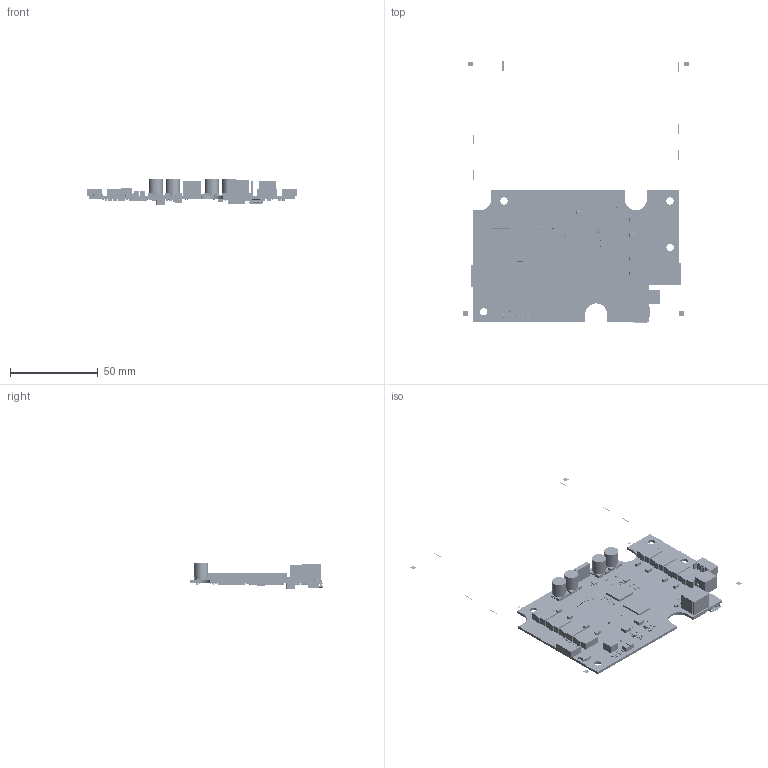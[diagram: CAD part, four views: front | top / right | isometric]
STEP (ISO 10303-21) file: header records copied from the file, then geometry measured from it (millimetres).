
FILE_DESCRIPTION(('STEP AP214'),'1');
FILE_NAME('AI2MAX_AMP_A113X_REV10_210715-3D.step','2021-07-15T09:35:54',(' '),(' '),'Spatial InterOp 3D','XD3DPlugin XRACreate',' ');
FILE_SCHEMA(('automotive_design'));
Length unit declared in the file: millimetre
Products named in the file (286): Submodel-D:\Gerber\AI2MAX_AMP_A113X_REV10_210715-3D_PCB\3D\Input_S\RES1608.xtd; RES1608; Submodel-R1608_part_simplified_R1608; DesignRootModel; Submodel-D:\Gerber\AI2MAX_AMP_A113X_REV10_210715-3D_PCB\3D\Input_S\CAP1608_H1_1.xtd; CAP1608_H1_1; Submodel-C1608_part_simplified_C1608; Submodel-D:\Gerber\AI2MAX_AMP_A113X_REV10_210715-3D_PCB\3D\Input_S\CAP1005_H0_7.xtd; CAP1005_H0_7; Submodel-C1005_part_simplified_C1005; Submodel-D:\Gerber\AI2MAX_AMP_A113X_REV10_210715-3D_PCB\3D\Input_S\SOT583_MP2330C_MNP.xtd; SOT583_MP2330C_MNP; Submodel-SOT583_MP2338_part_simplified_SOT583_MP2338; Submodel-D:\Gerber\AI2MAX_AMP_A113X_REV10_210715-3D_PCB\3D\Input_S\RES1005.xtd; RES1005; Submodel-R1005_part_simplified_R1005; Submodel-D:\Gerber\AI2MAX_AMP_A113X_REV10_210715-3D_PCB\3D\Input_S\10118192C.xtd; 10118192C; Submodel-MICRO_USB_10118192_part_simplified_MICRO_USB_10118192; Submodel-D:\Gerber\AI2MAX_AMP_A113X_REV10_210715-3D_PCB\3D\Input_S\CAP3225_H2_9.xtd; CAP3225_H2_9; Submodel-C3225_part_simplified_C3225; Submodel-D:\Gerber\AI2MAX_AMP_A113X_REV10_210715-3D_PCB\3D\Input_S\CAP3216_H1_8.xtd; CAP3216_H1_8; Submodel-C3216_part_simplified_C3216; Submodel-D:\Gerber\AI2MAX_AMP_A113X_REV10_210715-3D_PCB\3D\Input_S\ALCAP_8PI_H10.xtd; ALCAP_8PI_H10; Submodel-ECAP_8PI_H10_part_simplified_ECAP_8PI_H10; Submodel-D:\Gerber\AI2MAX_AMP_A113X_REV10_210715-3D_PCB\3D\Input_S\TR_SOT23_LRT_H1_4.xtd; TR_SOT23_LRT_H1_4; Submodel-SOT23_LRT_MMBT3904_part_simplified_SOT23_LRT_MMBT3904; Submodel-D:\Gerber\AI2MAX_AMP_A113X_REV10_210715-3D_PCB\3D\Input_S\SOP23-6P_H1_3.xtd; SOP23-6P_H1_3; Submodel-SOT23-6P_TMI3252S_part_simplified_SOT23-6P_TMI3252S; Submodel-D:\Gerber\AI2MAX_AMP_A113X_REV10_210715-3D_PCB\3D\Input_S\SOT23-5P_H1_45_TPS7A0530PDBVR.xtd; SOT23-5P_H1_45_TPS7A0530PDBVR; Submodel-SOT23-5_TMI6050_part_simplified_SOT23-5_TMI6050; uid__9223372036855096900; Submodel-noModelForPart_MISSING_HOLE_3_3375377121; placementOutline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
Assembly tree (809 placements, depth 5):
  ProductRootModel
    DesignRootModel
      Submodel-R1608_part_simplified_R1608  x16
        Submodel-D:\Gerber\AI2MAX_AMP_A113X_REV10_210715-3D_PCB\3D\Input_S\RES1608.xtd
          RES1608
      Submodel-C1608_part_simplified_C1608  x88
        Submodel-D:\Gerber\AI2MAX_AMP_A113X_REV10_210715-3D_PCB\3D\Input_S\CAP1608_H1_1.xtd
          CAP1608_H1_1
      Submodel-C1005_part_simplified_C1005  x91
        Submodel-D:\Gerber\AI2MAX_AMP_A113X_REV10_210715-3D_PCB\3D\Input_S\CAP1005_H0_7.xtd
          CAP1005_H0_7
      Submodel-SOT583_MP2338_part_simplified_SOT583_MP2338
        Submodel-D:\Gerber\AI2MAX_AMP_A113X_REV10_210715-3D_PCB\3D\Input_S\SOT583_MP2330C_MNP.xtd
          SOT583_MP2330C_MNP
      Submodel-R1005_part_simplified_R1005  x131
        Submodel-D:\Gerber\AI2MAX_AMP_A113X_REV10_210715-3D_PCB\3D\Input_S\RES1005.xtd
          RES1005
      Submodel-MICRO_USB_10118192_part_simplified_MICRO_USB_10118192
        Submodel-D:\Gerber\AI2MAX_AMP_A113X_REV10_210715-3D_PCB\3D\Input_S\10118192C.xtd
          10118192C
      Submodel-C3225_part_simplified_C3225  x2
        Submodel-D:\Gerber\AI2MAX_AMP_A113X_REV10_210715-3D_PCB\3D\Input_S\CAP3225_H2_9.xtd
          CAP3225_H2_9
      Submodel-C3216_part_simplified_C3216  x8
        Submodel-D:\Gerber\AI2MAX_AMP_A113X_REV10_210715-3D_PCB\3D\Input_S\CAP3216_H1_8.xtd
          CAP3216_H1_8
      Submodel-ECAP_8PI_H10_part_simplified_ECAP_8PI_H10  x4
        Submodel-D:\Gerber\AI2MAX_AMP_A113X_REV10_210715-3D_PCB\3D\Input_S\ALCAP_8PI_H10.xtd
          ALCAP_8PI_H10
      Submodel-SOT23_LRT_MMBT3904_part_simplified_SOT23_LRT_MMBT3904  x5
        Submodel-D:\Gerber\AI2MAX_AMP_A113X_REV10_210715-3D_PCB\3D\Input_S\TR_SOT23_LRT_H1_4.xtd
          TR_SOT23_LRT_H1_4
      Submodel-SOT23-6P_TMI3252S_part_simplified_SOT23-6P_TMI3252S  x4
        Submodel-D:\Gerber\AI2MAX_AMP_A113X_REV10_210715-3D_PCB\3D\Input_S\SOP23-6P_H1_3.xtd
          SOP23-6P_H1_3
      Submodel-SOT23-5_TMI6050_part_simplified_SOT23-5_TMI6050  x2
        Submodel-D:\Gerber\AI2MAX_AMP_A113X_REV10_210715-3D_PCB\3D\Input_S\SOT23-5P_H1_45_TPS7A0530PDBVR.xtd
          SOT23-5P_H1_45_TPS7A0530PDBVR
      uid__9223372036855096900
      Submodel-MISSING_HOLE_3_3375377121_part_MISSING_HOLE_3  x4
        Submodel-noModelForPart_MISSING_HOLE_3_3375377121
          placementOutline
      Submodel-MISSING_HOLE_2494809629_part_MISSING_HOLE  x12
        Submodel-noModelForPart_MISSING_HOLE_2494809629
          placementOutline
      Submodel-HDR_4P_4180940590_part_HDR_4P
        Submodel-noModelForPart_HDR_4P_4180940590
          placementOutline
          placementOutline
          placementOutline
          placementOutline
          placementOutline
      Submodel-CIS2012_1729941178_part_CIS2012  x5
        Submodel-noModelForPart_CIS2012_1729941178
          placementOutline
      Submodel-BLM21_3454643064_part_BLM21  x3
        Submodel-noModelForPart_BLM21_3454643064
          placementOutline
      Submodel-TSOP48_W20_MX30LF4G28AD-TI_3342004597_part_TSOP48_W20_MX30LF4G28AD-TI
        Submodel-noModelForPart_TSOP48_W20_MX30LF4G28AD-TI_3342004597
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Bounding box: 128 x 149.34 x 15.1 mm (x, y, z)
Volume: 23268.6 mm3; surface area: 34148.9 mm2
Topology: 1684 solids, 2316 shells, 21509 faces, 49221 edges, 28940 vertices
Faces by surface type: plane 10652, cylinder 7965, sphere 2780, bspline 108, torus 4
Full cylindrical faces by diameter (mm): 0.065 x1, 0.2 x42, 0.6 x42, 1.005 x42, 2 x1, 4.2 x4, 7 x4, 8 x4
Entity records: 128233 total; most frequent: CARTESIAN_POINT 20885, DIRECTION 16117, ORIENTED_EDGE 11480, EDGE_CURVE 7496, VERTEX_POINT 5990, LINE 5667, VECTOR 5667, AXIS2_PLACEMENT_3D 5225
